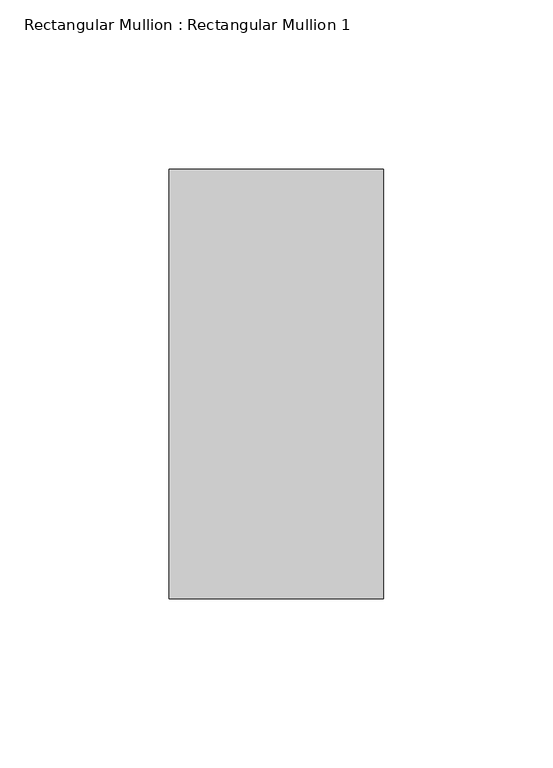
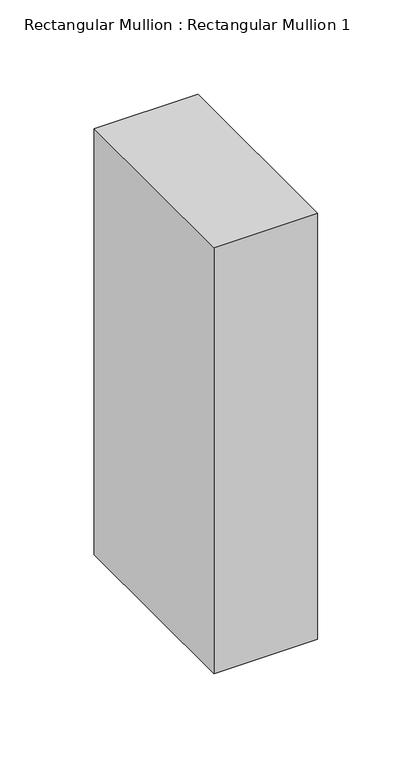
"""IFC4 building model written with IfcOpenShell, lengths in millimetres: member geometry, Rectangular Mullion : Rectangular Mullion 1."""

from ifc_helpers import new_model, si_unit, frame, origin, place, context, project, spatial, polyline, outline, extrude, source, transform, mapped, element, save


def rectangular_mullion_rectangular_mullion_1_74bde041(model_context):
    return source(origin(), model_context, "Body", "SweptSolid", [
        extrude(outline(polyline([(31.75, 63.5), (31.75, -63.5), (-31.75, -63.5), (-31.75, 63.5), (31.75, 63.5)])), frame((0.0, 0.0, -275.7527241), z_axis=(0.0, 0.0, 1.0), x_axis=(1.0, 0.0, 0.0)), (0.0, 0.0, 1.0), 275.7527241),
    ])


if __name__ == "__main__":
    model = new_model("IFC4")
    model_context = context("Model", 3, world=origin())
    ifc_project = project(units=[si_unit("LENGTHUNIT", "METRE", prefix="MILLI")], contexts=[model_context])
    site = spatial("IfcSite", under=ifc_project)
    building = spatial("IfcBuilding", under=site)
    placement = place(None, origin())
    rectangular_mullion_rectangular_mullion_1_shape = rectangular_mullion_rectangular_mullion_1_74bde041(model_context)
    element("IfcMember", 1, ObjectType="Rectangular Mullion : Rectangular Mullion 1", at=placement, inside=building, context=model_context, shape_type="MappedRepresentation", body=[
        mapped(rectangular_mullion_rectangular_mullion_1_shape, transform((0.0, 0.0, 0.0), x_axis=(1.0, 0.0, 0.0), y_axis=(0.0, 1.0, 0.0), z_axis=(0.0, 0.0, 1.0))),
    ])
    save(model, "model.ifc")
